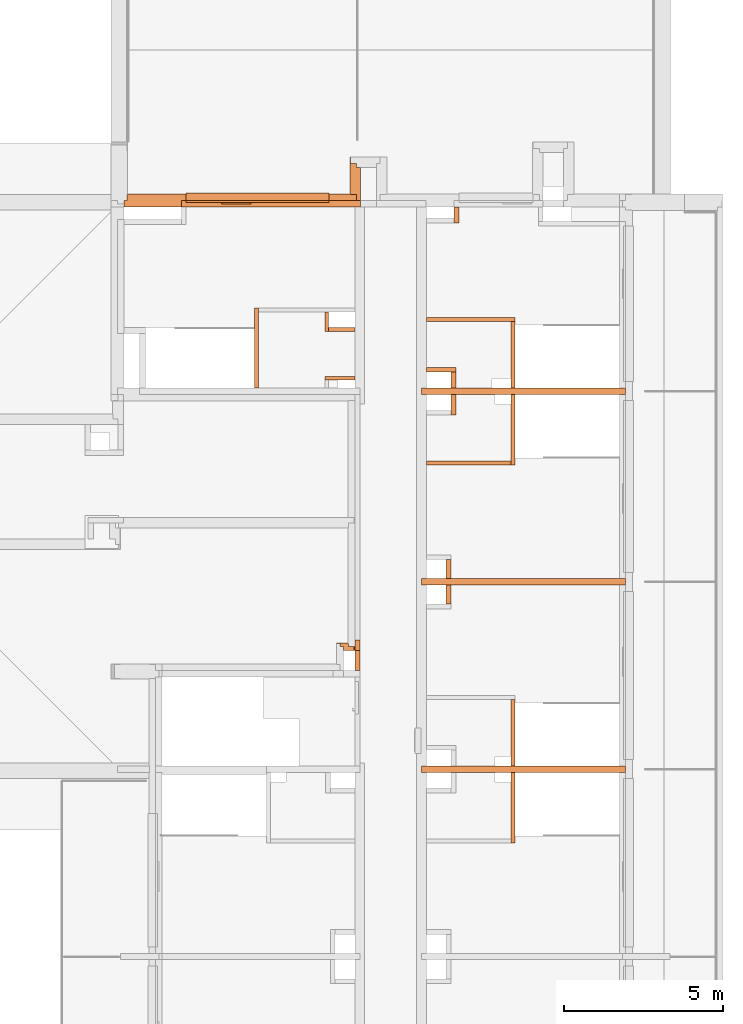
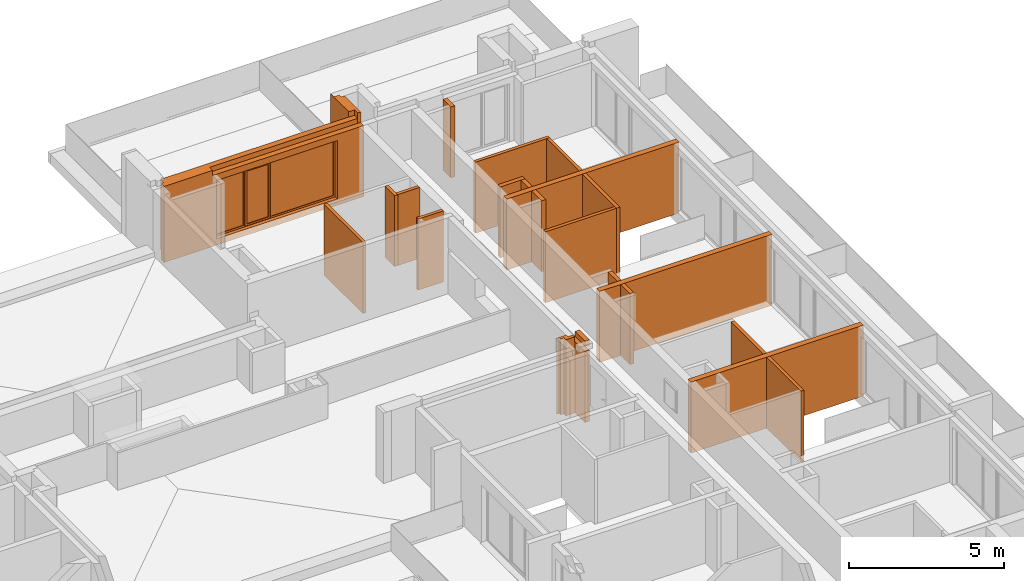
# One storey, part 29 of 30: 24 proxies, 2 openings.
"""IFC2X3 building model written with IfcOpenShell, lengths in millimetres."""

import ifcopenshell
import ifcopenshell.guid

model = None  # the IFC model being written
_history = None  # IfcOwnerHistory: only IFC2X3 demands one
_inside = {}  # id of a spatial element -> (the spatial element, [elements in it])
_under = {}  # id of a project, library or spatial element -> (it, [spatial elements below it])
_declared = {}  # id of a project -> (the project, [libraries it declares])
_typed = {}  # id of a type object -> (the type object, [elements of that type])
_made_of = {}  # id of a material, layer set ... -> (it, [elements and type objects made of it])


def new_model(schema):
    """Start an empty IFC model of exactly this schema.

    Asked for "IFC4X3", IfcOpenShell would pick the latest addendum, in which some entities
    have other attributes; the version numbers below select the first issue.
    IFC2X3 requires an IfcOwnerHistory on every rooted entity: one is made here for all.
    """
    global model, _history
    if schema == "IFC4X3":
        model = ifcopenshell.file(schema_version=(4, 3, 0, 0))
    else:
        model = ifcopenshell.file(schema=schema)
    _inside.clear()
    _under.clear()
    _declared.clear()
    _typed.clear()
    _made_of.clear()
    _history = None
    if model.schema == "IFC2X3":
        org = make("IfcOrganization", Name="unknown")
        user = make(
            "IfcPersonAndOrganization",
            ThePerson=make("IfcPerson", FamilyName="unknown"),
            TheOrganization=org,
        )
        app = make(
            "IfcApplication",
            ApplicationDeveloper=org,
            Version="unknown",
            ApplicationFullName="unknown",
            ApplicationIdentifier="unknown",
        )
        _history = make(
            "IfcOwnerHistory",
            OwningUser=user,
            OwningApplication=app,
            ChangeAction="ADDED",
            CreationDate=0,
        )
    return model


def make(cls, **values):
    """One entity of the class cls with the attributes given. An attribute that is None is left unset."""
    return model.create_entity(
        cls, **{name: value for name, value in values.items() if value is not None}
    )


def entity(cls, *values):
    """Any entity or typed value of the class cls, its attributes in the order of the schema. None: left unset."""
    e = model.create_entity(cls)
    for i, value in enumerate(values):
        if value is not None:
            e[i] = value
    return e


def rooted(cls, **values):
    """An entity with a GlobalId (a new one), such as an element, a storey or a relation."""
    return make(cls, GlobalId=ifcopenshell.guid.new(), OwnerHistory=_history, **values)


def si_unit(unit_type, name, prefix=None):
    """IfcSIUnit, for example si_unit("LENGTHUNIT", "METRE", prefix="MILLI")."""
    return make("IfcSIUnit", UnitType=unit_type, Prefix=prefix, Name=name)


def converted_unit(unit_type, name, factor, base, dimensions=None, offset=None):
    """IfcConversionBasedUnit, such as the inch: factor (a typed value) times the base unit."""
    return make(
        "IfcConversionBasedUnit"
        if offset is None
        else "IfcConversionBasedUnitWithOffset",
        ConversionOffset=offset,
        Dimensions=None
        if dimensions is None
        else entity("IfcDimensionalExponents", *dimensions),
        UnitType=unit_type,
        Name=name,
        ConversionFactor=make(
            "IfcMeasureWithUnit", ValueComponent=factor, UnitComponent=base
        ),
    )


def derived_unit(unit_type, elements):
    """IfcDerivedUnit: a product of units, each with its exponent."""
    return make(
        "IfcDerivedUnit",
        Elements=[
            make("IfcDerivedUnitElement", Unit=unit, Exponent=power)
            for unit, power in elements
        ],
        UnitType=unit_type,
    )


def money_unit(currency):
    """IfcMonetaryUnit."""
    return make("IfcMonetaryUnit", Currency=currency)


def assignment(units):
    """IfcUnitAssignment: the units of a project."""
    return None if units is None else make("IfcUnitAssignment", Units=units)


def point(xyz):
    """IfcCartesianPoint."""
    return None if xyz is None else make("IfcCartesianPoint", Coordinates=xyz)


def direction(xyz):
    """IfcDirection."""
    return None if xyz is None else make("IfcDirection", DirectionRatios=xyz)


def frame(location, z_axis=None, x_axis=None):
    """IfcAxis2Placement3D, a coordinate frame: its origin and axes. An axis left out is left unset."""
    return make(
        "IfcAxis2Placement3D",
        Location=point(location),
        Axis=direction(z_axis),
        RefDirection=direction(x_axis),
    )


def frame_2d(location, x_axis=None):
    """IfcAxis2Placement2D, a coordinate frame in the plane: its origin and x axis."""
    return make(
        "IfcAxis2Placement2D", Location=point(location), RefDirection=direction(x_axis)
    )


def origin_with_axes():
    """The frame at (0, 0, 0) with the z axis (0, 0, 1) and the x axis (1, 0, 0) written out."""
    return frame((0.0, 0.0, 0.0), z_axis=(0.0, 0.0, 1.0), x_axis=(1.0, 0.0, 0.0))


def origin_2d_with_axis():
    """The frame at (0, 0) in the plane with the x axis (1, 0) written out."""
    return frame_2d((0.0, 0.0), x_axis=(1.0, 0.0))


def place(relative_to, where):
    """IfcLocalPlacement: puts the frame where relative to a parent placement (None: the world)."""
    return make(
        "IfcLocalPlacement", PlacementRelTo=relative_to, RelativePlacement=where
    )


def context(
    kind, dimensions, precision=None, world=None, true_north=None, identifier=None
):
    """IfcGeometricRepresentationContext, for example the 3D "Model" context."""
    return make(
        "IfcGeometricRepresentationContext",
        ContextIdentifier=identifier,
        ContextType=kind,
        CoordinateSpaceDimension=dimensions,
        Precision=precision,
        WorldCoordinateSystem=world,
        TrueNorth=true_north,
    )


def subcontext(parent, identifier, kind, view, scale=None):
    """IfcGeometricRepresentationSubContext, for example "Body" below "Model"."""
    return make(
        "IfcGeometricRepresentationSubContext",
        ContextIdentifier=identifier,
        ContextType=kind,
        ParentContext=parent,
        TargetScale=scale,
        TargetView=view,
    )


def project(units=None, contexts=None):
    """IfcProject with its units and contexts."""
    return rooted(
        "IfcProject",
        Name="project",
        RepresentationContexts=contexts,
        UnitsInContext=assignment(units),
    )


def spatial(cls, under=None, at=None, **own):
    """A site, building, storey or space (cls), placed at a placement, below another one or the project."""
    s = rooted(cls, ObjectPlacement=at, **own)
    if under is not None:
        _under.setdefault(under.id(), (under, []))[1].append(s)
    return s


def polyline(points):
    """IfcPolyline through the points."""
    return make("IfcPolyline", Points=[point(p) for p in points])


def profile(cls, at=None, kind="AREA", **sizes):
    """A parametric profile (cls). Its sizes go by their IFC names, for example OverallWidth=200.0."""
    return make(cls, ProfileType=kind, Position=at, **sizes)


def rectangle(**sizes):
    """IfcRectangleProfileDef."""
    return profile("IfcRectangleProfileDef", **sizes)


def outline(outer, holes=None, kind="AREA"):
    """IfcArbitraryClosedProfileDef: a profile drawn as a closed curve; with holes, ...WithVoids."""
    if holes is None:
        return make("IfcArbitraryClosedProfileDef", ProfileType=kind, OuterCurve=outer)
    return make(
        "IfcArbitraryProfileDefWithVoids",
        ProfileType=kind,
        OuterCurve=outer,
        InnerCurves=holes,
    )


def extrude(swept, where, along, depth):
    """IfcExtrudedAreaSolid: the profile swept, set in the frame where, extruded along a direction by depth."""
    return make(
        "IfcExtrudedAreaSolid",
        SweptArea=swept,
        Position=where,
        ExtrudedDirection=direction(along),
        Depth=depth,
    )


def faces_of(points, faces, orient=None, outer=None):
    """IfcFace entities. A face is a list of loops; a loop is a list of indices into points, from 0.

    orient and outer hold one flag for each loop. By default every Orientation is true, the
    first loop of a face is its IfcFaceOuterBound and the others are IfcFaceBound.
    """
    made = []
    for i, loops in enumerate(faces):
        bounds = []
        for j, loop in enumerate(loops):
            is_outer = j == 0 if outer is None else outer[i][j]
            bounds.append(
                make(
                    "IfcFaceOuterBound" if is_outer else "IfcFaceBound",
                    Bound=make("IfcPolyLoop", Polygon=[points[k] for k in loop]),
                    Orientation=True if orient is None else orient[i][j],
                )
            )
        made.append(make("IfcFace", Bounds=bounds))
    return made


def open_shell(faces, orient=None, outer=None):
    """The faces of one IfcOpenShell. surface_model builds it on its shared points."""
    return ("IfcOpenShell", faces, orient, outer)


def faceted_brep(points, faces, orient=None, outer=None, voids=None):
    """IfcFacetedBrep: a solid bounded by flat faces; with voids (closed shells), ...WithVoids."""
    shared = [point(p) for p in points]
    hull = make("IfcClosedShell", CfsFaces=faces_of(shared, faces, orient, outer))
    if voids is None:
        return make("IfcFacetedBrep", Outer=hull)
    return make(
        "IfcFacetedBrepWithVoids",
        Outer=hull,
        Voids=[
            make(cls, CfsFaces=faces_of(shared, fs, o, b)) for cls, fs, o, b in voids
        ],
    )


def surface_model(cls, points, shells):
    """IfcFaceBasedSurfaceModel or IfcShellBasedSurfaceModel (cls): surfaces that need not close."""
    shared = [point(p) for p in points]
    made = [make(c, CfsFaces=faces_of(shared, fs, o, b)) for c, fs, o, b in shells]
    if cls == "IfcFaceBasedSurfaceModel":
        return make(cls, FbsmFaces=made)
    return make(cls, SbsmBoundary=made)


def shape(context_of_items, identifier, shape_type, items):
    """IfcShapeRepresentation: the items that make up one representation, for example the "Body"."""
    return make(
        "IfcShapeRepresentation",
        ContextOfItems=context_of_items,
        RepresentationIdentifier=identifier,
        RepresentationType=shape_type,
        Items=items,
    )


def material(Name=None, Category=None):
    """IfcMaterial."""
    return make("IfcMaterial", Name=Name, Category=Category)


def material_list(materials):
    """IfcMaterialList."""
    return make("IfcMaterialList", Materials=materials)


def made_of(thing, what):
    """Note that an element or type object is made of a material, layer set ...; save() writes the relation."""
    if what is not None:
        _made_of.setdefault(what.id(), (what, []))[1].append(thing)
    return thing


def type_object(cls, material=None, **own):
    """A type object (cls), such as IfcWallType, which elements share."""
    return made_of(rooted(cls, **own), material)


def element(
    cls,
    number,
    at=None,
    inside=None,
    cuts=None,
    type_object=None,
    material=None,
    context=None,
    identifier="Body",
    shape_type=None,
    held_by="IfcProductDefinitionShape",
    body=None,
    shapes=None,
    **own,
):
    """One element of the class cls, such as IfcWall. Its Tag is "e" and its number.

    at: its placement. inside: the storey or other place that contains it. cuts: it is an
    opening in that element (IfcRelVoidsElement). A single representation is given by context,
    identifier, shape_type and body (its items); several are given by shapes. held_by: the class
    of the entity that holds the representations. save() writes the other relations.
    """
    e = rooted(cls, Tag="e%d" % number, ObjectPlacement=at, **own)
    if body is not None:
        shapes = [shape(context, identifier, shape_type, body)]
    if shapes is not None:
        e.Representation = make(held_by, Representations=shapes)
    if inside is not None:
        _inside.setdefault(inside.id(), (inside, []))[1].append(e)
    if cuts is not None:
        rooted(
            "IfcRelVoidsElement", RelatingBuildingElement=cuts, RelatedOpeningElement=e
        )
    if type_object is not None:
        _typed.setdefault(type_object.id(), (type_object, []))[1].append(e)
    return made_of(e, material)


def fill(opening, filler):
    """IfcRelFillsElement: the door or window that sits in an opening."""
    return rooted(
        "IfcRelFillsElement",
        RelatingOpeningElement=opening,
        RelatedBuildingElement=filler,
    )


def aggregate(whole, parts):
    """IfcRelAggregates: a whole, such as a stair, and the parts it consists of."""
    return rooted("IfcRelAggregates", RelatingObject=whole, RelatedObjects=parts)


def save(model, path):
    """Write the relations noted so far, then the file.

    IfcRelAggregates (storeys below a building ...), IfcRelContainedInSpatialStructure (elements
    in a storey), IfcRelDefinesByType, IfcRelAssociatesMaterial and IfcRelDeclares: one each for
    every whole, place, type object, material and project.
    """
    for whole, parts in _under.values():
        aggregate(whole, parts)
    for where, things in _inside.values():
        rooted(
            "IfcRelContainedInSpatialStructure",
            RelatedElements=things,
            RelatingStructure=where,
        )
    for kind, things in _typed.values():
        rooted("IfcRelDefinesByType", RelatedObjects=things, RelatingType=kind)
    for what, things in _made_of.values():
        rooted("IfcRelAssociatesMaterial", RelatedObjects=things, RelatingMaterial=what)
    for by, libraries in _declared.values():
        rooted("IfcRelDeclares", RelatingContext=by, RelatedDefinitions=libraries)
    model.write(path)


model = new_model("IFC2X3")

# Units and contexts
model_context = context("Model", 3, precision=0.01, world=origin_with_axes(), true_north=direction((0.34421633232, 0.938890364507)))
body_context = subcontext(model_context, "Body", "Model", "MODEL_VIEW")
ifc_project = project(units=[si_unit("LENGTHUNIT", "METRE", prefix="MILLI"), si_unit("AREAUNIT", "SQUARE_METRE"), si_unit("VOLUMEUNIT", "CUBIC_METRE"), converted_unit("PLANEANGLEUNIT", "DEGREE", entity("IfcPlaneAngleMeasure", 0.0174532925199), si_unit("PLANEANGLEUNIT", "RADIAN"), dimensions=[0, 0, 0, 0, 0, 0, 0]), si_unit("SOLIDANGLEUNIT", "STERADIAN"), money_unit("USD"), converted_unit("TIMEUNIT", "Year", entity("IfcTimeMeasure", 31556926.0), si_unit("TIMEUNIT", "SECOND"), dimensions=[0, 0, 1, 0, 0, 0, 0]), si_unit("MASSUNIT", "GRAM", prefix="KILO"), si_unit("THERMODYNAMICTEMPERATUREUNIT", "DEGREE_CELSIUS"), si_unit("LUMINOUSINTENSITYUNIT", "LUMEN"), si_unit("ENERGYUNIT", "JOULE", prefix="MEGA"), derived_unit("THERMALCONDUCTANCEUNIT", [(si_unit("POWERUNIT", "WATT"), 1), (si_unit("LENGTHUNIT", "METRE"), -1), (si_unit("THERMODYNAMICTEMPERATUREUNIT", "KELVIN"), -1)]), derived_unit("SPECIFICHEATCAPACITYUNIT", [(si_unit("ENERGYUNIT", "JOULE"), 1), (si_unit("MASSUNIT", "GRAM", prefix="KILO"), -1), (si_unit("THERMODYNAMICTEMPERATUREUNIT", "KELVIN"), -1)]), derived_unit("MASSDENSITYUNIT", [(si_unit("MASSUNIT", "GRAM", prefix="KILO"), 1), (si_unit("VOLUMEUNIT", "CUBIC_METRE"), -1)])], contexts=[model_context])

# Site, building, storey
site_placement = place(None, origin_with_axes())
site = spatial("IfcSite", under=ifc_project, at=site_placement, Name="USTRONIE MORSKIE", CompositionType="ELEMENT")
building_placement = place(site_placement, origin_with_axes())
building = spatial("IfcBuilding", under=site, at=building_placement, Name="Budynek", CompositionType="ELEMENT")
storey_placement = place(building_placement, frame((0.0, 0.0, 16000.0), z_axis=(0.0, 0.0, 1.0), x_axis=(1.0, 0.0, 0.0)))
storey = spatial("IfcBuildingStorey", under=building, at=storey_placement, Name="ANTRESOLA - KOND. TECHNICZNA", CompositionType="ELEMENT", Elevation=16000.0)

# Proxies
ifc_material_1 = material(Name="Bloczki silikatowe")
building_element_proxy_type_1 = type_object("IfcBuildingElementProxyType", Name="Bloczki silikatowe 120", PredefinedType="NOTDEFINED")
proxy_1_placement = place(storey_placement, frame((420917.920919, 724641.180542, -159.999998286), z_axis=(0.0, 0.0, 1.0), x_axis=(0.0, 1.0, 0.0)))
element("IfcBuildingElementProxy", 1, at=proxy_1_placement, inside=storey, type_object=building_element_proxy_type_1, material=ifc_material_1, Name="SW-04", context=body_context, shape_type="Brep", body=[
    faceted_brep([(2160.01849378, -60.0, 2799.99999829), (2160.01849378, 60.0, 2799.99999829), (-59.9999999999, 60.0, 2799.99999829), (-59.9999999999, -60.0, 2799.99999829), (2160.01849378, -60.0, 0.0), (2160.01849378, 60.0, 0.0), (-59.9999999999, 60.0, 0.0), (-59.9999999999, -60.0, 0.0)], [[[0, 1, 2, 3]], [[1, 0, 4, 5]], [[1, 5, 6, 2]], [[7, 3, 2, 6]], [[4, 0, 3, 7]], [[5, 4, 7, 6]]]),
])
proxy_2_placement = place(storey_placement, frame((416017.920919, 739211.199036, -160.0), z_axis=(0.0, 0.0, 1.0), x_axis=(-1.0, 0.0, 0.0)))
element("IfcBuildingElementProxy", 2, at=proxy_2_placement, inside=storey, type_object=building_element_proxy_type_1, material=ifc_material_1, Name="Ściana-009", context=body_context, shape_type="Brep", body=[
    faceted_brep([(1020.00179464, 59.9999999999, 0.0), (1020.00179464, -59.9999999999, 0.0), (80.0, -59.9999999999, 0.0), (80.0, 59.9999999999, 0.0), (1020.00179464, 59.9999999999, 2800.0), (1020.00179464, -59.9999999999, 2800.0), (80.0, -59.9999999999, 2800.0), (80.0, 59.9999999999, 2800.0)], [[[0, 1, 2, 3]], [[1, 0, 4, 5]], [[1, 5, 6, 2]], [[7, 3, 2, 6]], [[4, 0, 3, 7]], [[5, 4, 7, 6]]]),
])
proxy_3_placement = place(storey_placement, frame((415057.919124, 740741.179476, -160.0), z_axis=(0.0, 0.0, 1.0), x_axis=(1.0, 0.0, 0.0)))
element("IfcBuildingElementProxy", 3, at=proxy_3_placement, inside=storey, type_object=building_element_proxy_type_1, material=ifc_material_1, Name="SW-04", context=body_context, shape_type="Brep", body=[
    faceted_brep([(880.001794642, 59.9999999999, 0.0), (880.001794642, -59.9999999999, 0.0), (60.0, -59.9999999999, 0.0), (60.0, 59.9999999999, 0.0), (880.001794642, 59.9999999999, 2800.0), (880.001794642, -59.9999999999, 2800.0), (60.0, -59.9999999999, 2800.0), (60.0, 59.9999999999, 2800.0)], [[[0, 1, 2, 3]], [[1, 0, 4, 5]], [[1, 5, 6, 2]], [[7, 3, 2, 6]], [[4, 0, 3, 7]], [[5, 4, 7, 6]]]),
])
proxy_4_placement = place(storey_placement, frame((420917.920919, 736541.179047, -159.999998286), z_axis=(0.0, 0.0, 1.0), x_axis=(-1.0, 0.0, 0.0)))
element("IfcBuildingElementProxy", 4, at=proxy_4_placement, inside=storey, type_object=building_element_proxy_type_1, material=ifc_material_1, Name="SW-04", context=body_context, shape_type="Brep", body=[
    faceted_brep([(2720.0, -59.9999999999, 2800.0), (2720.0, 59.9999999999, 2800.0), (60.0, 59.9999999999, 2800.0), (60.0, -59.9999999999, 2800.0), (2720.0, -59.9999999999, 0.0), (2720.0, 59.9999999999, 0.0), (60.0, 59.9999999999, 0.0), (60.0, -59.9999999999, 0.0)], [[[0, 1, 2, 3]], [[1, 0, 4, 5]], [[1, 5, 6, 2]], [[7, 3, 2, 6]], [[4, 0, 3, 7]], [[5, 4, 7, 6]]]),
])
proxy_5_placement = place(storey_placement, frame((420917.920919, 741061.218206, -159.999998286), z_axis=(0.0, 0.0, 1.0), x_axis=(-1.0, 0.0, 0.0)))
element("IfcBuildingElementProxy", 5, at=proxy_5_placement, inside=storey, type_object=building_element_proxy_type_1, material=ifc_material_1, Name="SW-04", context=body_context, shape_type="Brep", body=[
    faceted_brep([(2720.0, 59.9999999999, 0.0), (2720.0, -59.9999999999, 0.0), (-60.0, -59.9999999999, 0.0), (-60.0, 59.9999999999, 0.0), (2720.0, 59.9999999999, 2800.0), (2720.0, -59.9999999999, 2800.0), (-60.0, -59.9999999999, 2800.0), (-60.0, 59.9999999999, 2800.0)], [[[0, 1, 2, 3]], [[1, 0, 4, 5]], [[1, 5, 6, 2]], [[7, 3, 2, 6]], [[4, 0, 3, 7]], [[5, 4, 7, 6]]]),
])
proxy_6_placement = place(storey_placement, frame((420917.920919, 729161.219701, -159.999998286), z_axis=(0.0, 0.0, 1.0), x_axis=(0.0, -1.0, 0.0)))
element("IfcBuildingElementProxy", 6, at=proxy_6_placement, inside=storey, type_object=building_element_proxy_type_1, material=ifc_material_1, Name="SW-04", context=body_context, shape_type="Brep", body=[
    faceted_brep([(59.9999999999, -60.0, 2799.99999829), (2160.02066499, -60.0, 2799.99999829), (2160.02066499, 60.0, 2799.99999829), (59.9999999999, 60.0, 2799.99999829), (59.9999999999, -60.0, 0.0), (2160.02066499, -60.0, -1.7137242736e-06), (2160.02066499, 60.0, -1.7137242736e-06), (59.9999999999, 60.0, 0.0)], [[[0, 1, 2, 3]], [[4, 5, 1, 0]], [[5, 6, 2, 1]], [[3, 2, 6, 7]], [[3, 7, 4, 0]], [[7, 6, 5, 4]]]),
])
proxy_7_placement = place(storey_placement, frame((415057.919124, 741361.180377, -160.0), z_axis=(0.0, 0.0, 1.0), x_axis=(0.0, -1.0, 0.0)))
element("IfcBuildingElementProxy", 7, at=proxy_7_placement, inside=storey, type_object=building_element_proxy_type_1, material=ifc_material_1, Name="SW-04", context=body_context, shape_type="Brep", body=[
    faceted_brep([(680.00090117, 60.0, 0.0), (680.00090117, -60.0, 0.0), (59.9999999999, -60.0, 0.0), (59.9999999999, 60.0, 0.0), (680.00090117, 60.0, 2800.0), (680.00090117, -60.0, 2800.0), (59.9999999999, -60.0, 2800.0), (59.9999999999, 60.0, 2800.0)], [[[0, 1, 2, 3]], [[1, 0, 4, 5]], [[1, 5, 6, 2]], [[7, 3, 2, 6]], [[4, 0, 3, 7]], [[5, 4, 7, 6]]]),
])
proxy_8_placement = place(storey_placement, frame((420917.920919, 741061.218206, -159.999998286), z_axis=(0.0, 0.0, 1.0), x_axis=(0.0, -1.0, 0.0)))
element("IfcBuildingElementProxy", 8, at=proxy_8_placement, inside=storey, type_object=building_element_proxy_type_1, material=ifc_material_1, Name="SW-04", context=body_context, shape_type="Brep", body=[
    faceted_brep([(59.9999999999, -60.0, 2800.0), (2160.01307025, -60.0, 2799.99999829), (2160.01307025, 60.0, 2799.99999829), (59.9999999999, 60.0, 2800.0), (59.9999999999, -60.0, 0.0), (2160.01307025, -60.0, -1.71373315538e-06), (2160.01307025, 60.0, -1.71373315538e-06), (59.9999999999, 60.0, 0.0)], [[[0, 1, 2, 3]], [[4, 5, 1, 0]], [[5, 6, 2, 1]], [[3, 2, 6, 7]], [[3, 7, 4, 0]], [[7, 6, 5, 4]]]),
])
proxy_9_placement = place(storey_placement, frame((420917.920919, 736541.179047, -159.999998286), z_axis=(0.0, 0.0, 1.0), x_axis=(0.0, 1.0, 0.0)))
element("IfcBuildingElementProxy", 9, at=proxy_9_placement, inside=storey, type_object=building_element_proxy_type_1, material=ifc_material_1, Name="SW-04", context=body_context, shape_type="Brep", body=[
    faceted_brep([(2160.02608853, -60.0, 2800.0), (2160.02608853, 60.0, 2800.0), (-59.9999999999, 60.0, 2800.0), (-59.9999999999, -60.0, 2800.0), (2160.02608853, -60.0, 0.0), (2160.02608853, 60.0, 0.0), (-59.9999999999, 60.0, 0.0), (-59.9999999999, -60.0, 0.0)], [[[0, 1, 2, 3]], [[1, 0, 4, 5]], [[1, 5, 6, 2]], [[7, 3, 2, 6]], [[4, 0, 3, 7]], [[5, 4, 7, 6]]]),
])
proxy_10_placement = place(storey_placement, frame((412847.920963, 738901.199036, -160.0), z_axis=(0.0, 0.0, 1.0), x_axis=(0.0, 1.0, 0.0)))
element("IfcBuildingElementProxy", 10, at=proxy_10_placement, inside=storey, type_object=building_element_proxy_type_1, material=ifc_material_1, Name="SW-04", context=body_context, shape_type="Brep", body=[
    faceted_brep([(2519.98134114, 60.0, 0.0), (2519.98134114, -60.0, 0.0), (0.0, -60.0, 0.0), (0.0, 60.0, 0.0), (2519.98134114, 60.0, 2800.0), (2519.98134114, -60.0, 2800.0), (0.0, -60.0, 2800.0), (0.0, 60.0, 2800.0)], [[[0, 1, 2, 3]], [[1, 0, 4, 5]], [[1, 5, 6, 2]], [[7, 3, 2, 6]], [[4, 0, 3, 7]], [[5, 4, 7, 6]]]),
])

# Proxies, openings
ifc_material_2 = material(Name="Tynk zewnętrzny")
ifc_material_3 = material(Name="Wełna ELEW")
ifc_material_4 = material(Name="Beton konstrukcyjny B25")
ifc_material_list_1 = material_list([ifc_material_2, ifc_material_3, ifc_material_4])
building_element_proxy_type_2 = type_object("IfcBuildingElementProxyType", Name="20+20 410", PredefinedType="NOTDEFINED")
proxy_11_placement = place(storey_placement, frame((408567.920919, 744701.199036, -160.0), z_axis=(0.0, 0.0, 1.0), x_axis=(1.0, 0.0, 0.0)))
proxy_11 = element("IfcBuildingElementProxy", 11, at=proxy_11_placement, inside=storey, type_object=building_element_proxy_type_2, material=ifc_material_list_1, Name="SZ-01", context=body_context, shape_type="Brep", body=[
    faceted_brep([(7230.00002166, 300.0, 239.99999792), (7230.00002166, 310.0, 239.99999792), (7230.00002166, 310.0, 3000.0), (7230.00002166, 300.0, 3000.0), (210.0, 310.0, 239.99999792), (210.0, 300.0, 239.99999792), (210.0, 310.0, 3000.0), (210.0, 300.0, 3000.0)], [[[0, 1, 2, 3]], [[4, 1, 0, 5]], [[1, 4, 6, 2]], [[3, 2, 6, 7]], [[5, 0, 3, 7]], [[4, 5, 7, 6]]]),
    faceted_brep([(7430.00002166, 100.0, 239.99999792), (7430.00002166, 300.0, 239.99999792), (7430.00002166, 300.0, 3000.0), (7430.00002166, 100.0, 3000.0), (200.0, 300.0, 239.99999792), (200.0, 100.0, 239.99999792), (200.0, 300.0, 3000.0), (200.0, 100.0, 3000.0)], [[[0, 1, 2, 3]], [[4, 1, 0, 5]], [[1, 4, 6, 2]], [[3, 2, 6, 7]], [[5, 0, 3, 7]], [[4, 5, 7, 6]]]),
    faceted_brep([(1910.01916511, 100.0, 3000.0), (1910.01916511, 100.0, 2800.0), (7550.0, 100.0, 2800.0), (7550.0, 100.0, 0.0), (100.0, 100.0, 0.0), (100.0, 100.0, 3000.0), (1910.01916964, -100.0, 3000.0), (1910.01916964, -100.0, 2800.0), (7550.0, -100.0, 2800.0), (7550.0, -100.0, 0.0), (100.0, -100.0, 0.0), (100.0, -100.0, 3000.0)], [[[0, 1, 2, 3, 4, 5]], [[1, 0, 6, 7]], [[8, 2, 1, 7]], [[2, 8, 9, 3]], [[10, 4, 3, 9]], [[4, 10, 11, 5]], [[6, 0, 5, 11]], [[7, 6, 11, 10, 9, 8]]]),
])
opening_1_placement = place(proxy_11_placement, frame((1135.00958482, 0.0, 160.0), z_axis=(0.0, 0.0, 1.0), x_axis=(1.0, 0.0, 0.0)))
element("IfcOpeningElement", 12, at=opening_1_placement, cuts=proxy_11, Name="Okna-005", context=body_context, shape_type="SweptSolid", body=[
    extrude(outline(polyline([(-925.009584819, 0.0), (925.009584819, 0.0), (925.009584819, 2390.0), (-925.009584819, 2390.0), (-925.009584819, 0.0)])), frame((0.0, 290.0, 0.0), z_axis=(0.0, 1.0, 0.0), x_axis=(-1.0, 0.0, 0.0)), (0.0, 0.0, 1.0), 430.0),
])
opening_2_placement = place(proxy_11_placement, frame((4310.01916964, 0.0, 250.0), z_axis=(0.0, 0.0, 1.0), x_axis=(1.0, 0.0, 0.0)))
opening_2 = element("IfcOpeningElement", 13, at=opening_2_placement, cuts=proxy_11, Name="Wz.06", context=body_context, shape_type="SweptSolid", body=[
    extrude(rectangle(XDim=4500.0, YDim=2300.0, at=origin_2d_with_axis()), frame((0.0, 99.9999999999, 1150.0), z_axis=(0.0, -1.0, 0.0), x_axis=(-1.0, 0.0, 0.0)), (0.0, 0.0, -1.0), 620.0),
    extrude(rectangle(XDim=4500.0, YDim=2300.0, at=origin_2d_with_axis()), frame((0.0, 100.0, 1150.0), z_axis=(0.0, 1.0, 0.0), x_axis=(-1.0, 0.0, 0.0)), (0.0, 0.0, -1.0), 610.0),
])
building_element_proxy_type_3 = type_object("IfcBuildingElementProxyType", Name="Okno potrójne 23", PredefinedType="NOTDEFINED")
proxy_12_placement = place(opening_2_placement, frame((2250.0, 0.0, 0.0), z_axis=(0.0, 0.0, 1.0), x_axis=(-1.0, 0.0, 0.0)))
proxy_12 = element("IfcBuildingElementProxy", 14, at=proxy_12_placement, inside=storey, type_object=building_element_proxy_type_3, Name="Wz.06", context=body_context, shape_type="SurfaceModel", body=[
    faceted_brep([(0.0, -100.0, 5.0), (0.0, -310.0, 5.0), (0.0, -310.0, 18.9943663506), (0.0, -100.0, 30.0), (4500.0, -100.0, 5.0), (4500.0, -310.0, 5.0), (4500.0, -340.0, 5.0), (0.0, -340.0, 5.0), (0.0, -340.0, 17.4221329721), (4500.0, -340.0, 17.4221329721), (4500.0, -310.0, 18.9943663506), (4500.0, -100.0, 30.0)], [[[0, 1, 2, 3]], [[0, 4, 5, 6, 7, 1]], [[1, 7, 8, 2]], [[3, 2, 8, 9, 10, 11]], [[4, 0, 3, 11]], [[5, 4, 11, 10]], [[6, 5, 10, 9]], [[7, 6, 9, 8]]]),
    faceted_brep([(0.0, -100.0, 0.0), (0.0, -310.0, 0.0), (0.0, -310.0, 5.0), (0.0, -100.0, 5.0), (4500.0, -100.0, 0.0), (4500.0, -310.0, 0.0), (4500.0, -310.0, 5.0), (4500.0, -100.0, 5.0)], [[[0, 1, 2, 3]], [[0, 4, 5, 1]], [[1, 5, 6, 2]], [[3, 2, 6, 7]], [[4, 0, 3, 7]], [[5, 4, 7, 6]]]),
    faceted_brep([(3362.5, -59.9999999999, 2230.0), (3362.5, -100.0, 2230.0), (3427.5, -100.0, 2230.0), (3427.5, -35.0, 2230.0), (3387.5, -35.0, 2230.0), (3387.5, -59.9999999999, 2230.0), (3362.5, -59.9999999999, 70.0), (3362.5, -100.0, 70.0), (3427.5, -100.0, 70.0), (3427.5, -35.0, 70.0), (3387.5, -35.0, 70.0), (3387.5, -59.9999999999, 70.0)], [[[0, 1, 2, 3, 4, 5]], [[6, 7, 1, 0]], [[8, 2, 1, 7]], [[9, 3, 2, 8]], [[4, 3, 9, 10]], [[10, 11, 5, 4]], [[5, 11, 6, 0]], [[11, 10, 9, 8, 7, 6]]]),
    faceted_brep([(2452.5, -35.0, 2230.0), (2412.5, -35.0, 2230.0), (2412.5, -100.0, 2230.0), (2477.5, -100.0, 2230.0), (2477.5, -59.9999999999, 2230.0), (2452.5, -59.9999999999, 2230.0), (2452.5, -35.0, 70.0), (2412.5, -35.0, 70.0), (2412.5, -100.0, 70.0), (2477.5, -100.0, 70.0), (2477.5, -59.9999999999, 70.0), (2452.5, -59.9999999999, 70.0)], [[[0, 1, 2, 3, 4, 5]], [[6, 7, 1, 0]], [[1, 7, 8, 2]], [[2, 8, 9, 3]], [[4, 3, 9, 10]], [[10, 11, 5, 4]], [[5, 11, 6, 0]], [[11, 10, 9, 8, 7, 6]]]),
    faceted_brep([(3362.5, -59.9999999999, 70.0), (3362.5, -100.0, 70.0), (3427.5, -100.0, 70.0), (3427.5, -35.0, 70.0), (3387.5, -35.0, 70.0), (3387.5, -59.9999999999, 70.0), (2477.5, -59.9999999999, 70.0), (2477.5, -100.0, 70.0), (0.0, -100.0, 70.0), (0.0, -100.0, 0.0), (4500.0, -100.0, 0.0), (4500.0, -100.0, 70.0), (4430.0, -100.0, 70.0), (2412.5, -100.0, 70.0), (70.0, -100.0, 70.0), (4430.0, -35.0, 70.0), (2452.5, -35.0, 45.0), (3387.5, -35.0, 45.0), (4500.0, -35.0, 70.0), (4500.0, -35.0, 0.0), (0.0, -35.0, 0.0), (0.0, -35.0, 70.0), (70.0, -35.0, 70.0), (2412.5, -35.0, 70.0), (2452.5, -35.0, 70.0), (3387.5, -59.9999999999, 45.0), (2452.5, -59.9999999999, 45.0), (2452.5, -59.9999999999, 70.0)], [[[0, 1, 2, 3, 4, 5]], [[6, 7, 1, 0]], [[8, 9, 10, 11, 12, 2, 1, 7, 13, 14]], [[15, 3, 2, 12]], [[16, 17, 4, 3, 15, 18, 19, 20, 21, 22, 23, 24]], [[17, 25, 5, 4]], [[5, 25, 26, 27, 6, 0]], [[27, 24, 23, 13, 7, 6]], [[21, 20, 9, 8]], [[20, 19, 10, 9]], [[19, 18, 11, 10]], [[18, 15, 12, 11]], [[23, 22, 14, 13]], [[22, 21, 8, 14]], [[16, 26, 25, 17]], [[27, 26, 16, 24]]]),
    faceted_brep([(2452.5, -35.0, 2230.0), (2412.5, -35.0, 2230.0), (70.0, -35.0, 2230.0), (0.0, -35.0, 2230.0), (0.0, -35.0, 2300.0), (4500.0, -35.0, 2300.0), (4500.0, -35.0, 2230.0), (4430.0, -35.0, 2230.0), (3427.5, -35.0, 2230.0), (3387.5, -35.0, 2230.0), (3387.5, -35.0, 2255.0), (2452.5, -35.0, 2255.0), (2452.5, -59.9999999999, 2230.0), (2477.5, -59.9999999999, 2230.0), (2477.5, -100.0, 2230.0), (2412.5, -100.0, 2230.0), (70.0, -100.0, 2230.0), (0.0, -100.0, 2230.0), (0.0, -100.0, 2300.0), (4500.0, -100.0, 2300.0), (4500.0, -100.0, 2230.0), (4430.0, -100.0, 2230.0), (3427.5, -100.0, 2230.0), (3387.5, -59.9999999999, 2230.0), (3362.5, -100.0, 2230.0), (3362.5, -59.9999999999, 2230.0), (3387.5, -59.9999999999, 2255.0), (2452.5, -59.9999999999, 2255.0)], [[[0, 1, 2, 3, 4, 5, 6, 7, 8, 9, 10, 11]], [[12, 13, 14, 15, 1, 0]], [[2, 1, 15, 16]], [[3, 2, 16, 17]], [[4, 3, 17, 18]], [[5, 4, 18, 19]], [[6, 5, 19, 20]], [[7, 6, 20, 21]], [[8, 7, 21, 22]], [[23, 9, 8, 22, 24, 25]], [[9, 23, 26, 10]], [[10, 26, 27, 11]], [[11, 27, 12, 0]], [[25, 13, 12, 27, 26, 23]], [[25, 24, 14, 13]], [[14, 24, 22, 21, 20, 19, 18, 17, 16, 15]]]),
    faceted_brep([(70.0, -100.0, 2230.0), (70.0, -35.0, 2230.0), (0.0, -35.0, 2230.0), (0.0, -100.0, 2230.0), (70.0, -100.0, 70.0), (70.0, -35.0, 70.0), (0.0, -35.0, 70.0), (0.0, -100.0, 70.0)], [[[0, 1, 2, 3]], [[4, 5, 1, 0]], [[1, 5, 6, 2]], [[3, 2, 6, 7]], [[0, 3, 7, 4]], [[7, 6, 5, 4]]]),
    faceted_brep([(4430.0, -100.0, 70.0), (4430.0, -35.0, 70.0), (4500.0, -35.0, 70.0), (4500.0, -100.0, 70.0), (4430.0, -100.0, 2230.0), (4430.0, -35.0, 2230.0), (4500.0, -35.0, 2230.0), (4500.0, -100.0, 2230.0)], [[[0, 1, 2, 3]], [[4, 5, 1, 0]], [[1, 5, 6, 2]], [[3, 2, 6, 7]], [[0, 3, 7, 4]], [[7, 6, 5, 4]]]),
    surface_model("IfcShellBasedSurfaceModel", [(70.0, -69.9999999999, 70.0), (2412.5, -69.9999999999, 70.0), (2412.5, -69.9999999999, 2230.0), (70.0, -69.9999999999, 2230.0)], [open_shell([[[0, 1, 2, 3]]])]),
    surface_model("IfcShellBasedSurfaceModel", [(70.0, -50.0, 70.0), (70.0, -50.0, 2230.0), (2412.5, -50.0, 2230.0), (2412.5, -50.0, 70.0)], [open_shell([[[0, 1, 2, 3]]])]),
    faceted_brep([(2517.5, -59.9999999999, 2190.0), (2517.5, 5.0, 2190.0), (2452.5, 5.0, 2190.0), (2452.5, -59.9999999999, 2190.0), (2517.5, -59.9999999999, 110.0), (2517.5, 5.0, 110.0), (2452.5, 5.0, 110.0), (2452.5, -59.9999999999, 110.0)], [[[0, 1, 2, 3]], [[4, 5, 1, 0]], [[1, 5, 6, 2]], [[3, 2, 6, 7]], [[0, 3, 7, 4]], [[7, 6, 5, 4]]]),
    faceted_brep([(3322.5, -59.9999999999, 110.0), (3322.5, 5.0, 110.0), (3387.5, 5.0, 110.0), (3387.5, -59.9999999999, 110.0), (3322.5, -59.9999999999, 2190.0), (3322.5, 5.0, 2190.0), (3387.5, 5.0, 2190.0), (3387.5, -59.9999999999, 2190.0)], [[[0, 1, 2, 3]], [[4, 5, 1, 0]], [[1, 5, 6, 2]], [[3, 2, 6, 7]], [[0, 3, 7, 4]], [[7, 6, 5, 4]]]),
    faceted_brep([(3387.5, -59.9999999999, 45.0), (3387.5, 5.0, 45.0), (3387.5, 5.0, 110.0), (3387.5, -59.9999999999, 110.0), (2452.5, -59.9999999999, 45.0), (2452.5, 5.0, 45.0), (2452.5, 5.0, 110.0), (2517.5, 5.0, 110.0), (3322.5, 5.0, 110.0), (3322.5, -59.9999999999, 110.0), (2517.5, -59.9999999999, 110.0), (2452.5, -59.9999999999, 110.0)], [[[0, 1, 2, 3]], [[4, 5, 1, 0]], [[1, 5, 6, 7, 8, 2]], [[3, 2, 8, 9]], [[0, 3, 9, 10, 11, 4]], [[11, 6, 5, 4]], [[10, 7, 6, 11]], [[9, 8, 7, 10]]]),
    faceted_brep([(2452.5, -59.9999999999, 2255.0), (2452.5, 5.0, 2255.0), (2452.5, 5.0, 2190.0), (2452.5, -59.9999999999, 2190.0), (3387.5, -59.9999999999, 2255.0), (3387.5, 5.0, 2255.0), (3387.5, 5.0, 2190.0), (3322.5, 5.0, 2190.0), (2517.5, 5.0, 2190.0), (2517.5, -59.9999999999, 2190.0), (3322.5, -59.9999999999, 2190.0), (3387.5, -59.9999999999, 2190.0)], [[[0, 1, 2, 3]], [[4, 5, 1, 0]], [[1, 5, 6, 7, 8, 2]], [[3, 2, 8, 9]], [[0, 3, 9, 10, 11, 4]], [[11, 6, 5, 4]], [[10, 7, 6, 11]], [[9, 8, 7, 10]]]),
    surface_model("IfcShellBasedSurfaceModel", [(2517.5, -37.5, 110.0), (3322.5, -37.5, 110.0), (3322.5, -37.5, 2190.0), (2517.5, -37.5, 2190.0)], [open_shell([[[0, 1, 2, 3]]])]),
    surface_model("IfcShellBasedSurfaceModel", [(2517.5, -17.4999999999, 110.0), (2517.5, -17.4999999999, 2190.0), (3322.5, -17.4999999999, 2190.0), (3322.5, -17.4999999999, 110.0)], [open_shell([[[0, 1, 2, 3]]])]),
    surface_model("IfcShellBasedSurfaceModel", [(3427.5, -69.9999999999, 70.0), (4430.0, -69.9999999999, 70.0), (4430.0, -69.9999999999, 2230.0), (3427.5, -69.9999999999, 2230.0)], [open_shell([[[0, 1, 2, 3]]])]),
    surface_model("IfcShellBasedSurfaceModel", [(3427.5, -50.0, 70.0), (3427.5, -50.0, 2230.0), (4430.0, -50.0, 2230.0), (4430.0, -50.0, 70.0)], [open_shell([[[0, 1, 2, 3]]])]),
])
fill(opening_2, proxy_12)

# Proxies
building_element_proxy_type_4 = type_object("IfcBuildingElementProxyType", Name="Bloczki silikatowe 150", PredefinedType="NOTDEFINED")
proxy_13_placement = place(storey_placement, frame((419042.92182, 738801.205136, -160.0), z_axis=(0.0, 0.0, 1.0), x_axis=(0.0, -1.0, 0.0)))
element("IfcBuildingElementProxy", 15, at=proxy_13_placement, inside=storey, type_object=building_element_proxy_type_4, material=ifc_material_1, Name="SW-03", context=body_context, shape_type="Brep", body=[
    faceted_brep([(750.007374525, 75.0, 0.0), (750.007374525, -75.0, 0.0), (100.0, -75.0, 0.0), (100.0, 75.0, 0.0), (750.007374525, 75.0, 2800.0), (750.007374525, -75.0, 2800.0), (100.0, -75.0, 2800.0), (100.0, 75.0, 2800.0)], [[[0, 1, 2, 3]], [[1, 0, 4, 5]], [[1, 5, 6, 2]], [[7, 3, 2, 6]], [[4, 0, 3, 7]], [[5, 4, 7, 6]]]),
])
proxy_14_placement = place(storey_placement, frame((419042.92182, 739476.199519, -160.0), z_axis=(0.0, 0.0, 1.0), x_axis=(0.0, -1.0, 0.0)))
element("IfcBuildingElementProxy", 16, at=proxy_14_placement, inside=storey, type_object=building_element_proxy_type_4, material=ifc_material_1, Name="SW-03", context=body_context, shape_type="Brep", body=[
    faceted_brep([(75.0, -75.0, 2800.0), (574.994383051, -75.0, 2800.0), (574.994383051, 75.0, 2800.0), (75.0, 75.0, 2800.0), (75.0, -75.0, 0.0), (574.994383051, -75.0, 0.0), (574.994383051, 75.0, 0.0), (75.0, 75.0, 0.0)], [[[0, 1, 2, 3]], [[4, 5, 1, 0]], [[5, 6, 2, 1]], [[3, 2, 6, 7]], [[3, 7, 4, 0]], [[7, 6, 5, 4]]]),
])
proxy_15_placement = place(storey_placement, frame((418817.920919, 733501.199036, -160.0), z_axis=(0.0, 0.0, 1.0), x_axis=(0.0, -1.0, 0.0)))
element("IfcBuildingElementProxy", 17, at=proxy_15_placement, inside=storey, type_object=building_element_proxy_type_4, material=ifc_material_1, Name="SW-03", context=body_context, shape_type="Brep", body=[
    faceted_brep([(0.0, 0.0, 0.0), (0.0, 0.0, 2800.0), (0.0, 150.0, 2800.0), (0.0, 150.0, 0.0), (600.0, 0.0, 0.0), (600.0, 0.0, 2800.0), (600.0, 150.0, 2800.0), (600.0, 150.0, 0.0)], [[[0, 1, 2, 3]], [[4, 5, 1, 0]], [[5, 6, 2, 1]], [[3, 2, 6, 7]], [[0, 3, 7, 4]], [[7, 6, 5, 4]]]),
])
proxy_16_placement = place(storey_placement, frame((419142.92182, 744701.199973, -160.0), z_axis=(0.0, 0.0, 1.0), x_axis=(0.0, -1.0, 0.0)))
element("IfcBuildingElementProxy", 18, at=proxy_16_placement, inside=storey, type_object=building_element_proxy_type_4, material=ifc_material_1, Name="SW-03", context=body_context, shape_type="Brep", body=[
    faceted_brep([(600.000936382, 75.0, 0.0), (600.000936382, -75.0, 0.0), (100.000936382, -75.0, 0.0), (100.000936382, 75.0, 0.0), (600.000936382, 75.0, 2800.0), (600.000936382, -75.0, 2800.0), (100.000936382, -75.0, 2800.0), (100.000936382, 75.0, 2800.0)], [[[0, 1, 2, 3]], [[1, 0, 4, 5]], [[1, 5, 6, 2]], [[7, 3, 2, 6]], [[4, 0, 3, 7]], [[5, 4, 7, 6]]]),
])
proxy_17_placement = place(storey_placement, frame((418817.920919, 732101.199036, -160.0), z_axis=(0.0, 0.0, 1.0), x_axis=(0.0, 1.0, 0.0)))
element("IfcBuildingElementProxy", 19, at=proxy_17_placement, inside=storey, type_object=building_element_proxy_type_4, material=ifc_material_1, Name="SW-03", context=body_context, shape_type="Brep", body=[
    faceted_brep([(600.0, 0.0, 0.0), (600.0, 0.0, 2800.0), (600.0, -150.0, 2800.0), (600.0, -150.0, 0.0), (0.0, 0.0, 0.0), (0.0, 0.0, 2800.0), (0.0, -150.0, 2800.0), (0.0, -150.0, 0.0)], [[[0, 1, 2, 3]], [[4, 5, 1, 0]], [[5, 6, 2, 1]], [[3, 2, 6, 7]], [[7, 4, 0, 3]], [[7, 6, 5, 4]]]),
])
proxy_18_placement = place(storey_placement, frame((418117.920919, 739476.199519, -160.0), z_axis=(0.0, 0.0, 1.0), x_axis=(1.0, 0.0, 0.0)))
element("IfcBuildingElementProxy", 20, at=proxy_18_placement, inside=storey, type_object=building_element_proxy_type_4, material=ifc_material_1, Name="SW-03", context=body_context, shape_type="Brep", body=[
    faceted_brep([(1000.00090117, 75.0, 0.0), (1000.00090117, -75.0, 0.0), (80.0, -75.0, 0.0), (80.0, 75.0, 0.0), (1000.00090117, 75.0, 2800.0), (1000.00090117, -75.0, 2800.0), (80.0, -75.0, 2800.0), (80.0, 75.0, 2800.0)], [[[0, 1, 2, 3]], [[1, 0, 4, 5]], [[1, 5, 6, 2]], [[7, 3, 2, 6]], [[4, 0, 3, 7]], [[5, 4, 7, 6]]]),
])
building_element_proxy_type_5 = type_object("IfcBuildingElementProxyType", Name="Beton konstrukcyjny B25 200", PredefinedType="NOTDEFINED")
proxy_19_placement = place(storey_placement, frame((424367.920919, 732801.199036, -160.0), z_axis=(0.0, 0.0, 1.0), x_axis=(-1.0, 0.0, 0.0)))
element("IfcBuildingElementProxy", 21, at=proxy_19_placement, inside=storey, type_object=building_element_proxy_type_5, material=ifc_material_4, Name="SW-01", context=body_context, shape_type="Brep", body=[
    faceted_brep([(-100.0, -100.0, 0.0), (-100.0, 100.0, 0.0), (6330.0, 100.0, 0.0), (6330.0, -100.0, 0.0), (-100.0, -100.0, 2800.0), (-100.0, 100.0, 2800.0), (6330.0, 100.0, 2800.0), (6330.0, -100.0, 2800.0)], [[[0, 1, 2, 3]], [[0, 4, 5, 1]], [[1, 5, 6, 2]], [[6, 7, 3, 2]], [[4, 0, 3, 7]], [[5, 4, 7, 6]]]),
])
proxy_20_placement = place(storey_placement, frame((418117.920919, 738801.205136, -160.0), z_axis=(0.0, 0.0, 1.0), x_axis=(1.0, 0.0, 0.0)))
element("IfcBuildingElementProxy", 22, at=proxy_20_placement, inside=storey, type_object=building_element_proxy_type_5, material=ifc_material_4, Name="SW-01", context=body_context, shape_type="Brep", body=[
    faceted_brep([(-80.0, -100.0, 0.0), (-80.0, 100.0, 0.0), (6350.0, 100.0, 0.0), (6350.0, -100.0, 0.0), (-80.0, -100.0, 2800.0), (-80.0, 100.0, 2800.0), (6350.0, 100.0, 2800.0), (6350.0, -100.0, 2800.0)], [[[0, 1, 2, 3]], [[0, 4, 5, 1]], [[1, 5, 6, 2]], [[6, 7, 3, 2]], [[4, 0, 3, 7]], [[5, 4, 7, 6]]]),
])
proxy_21_placement = place(storey_placement, frame((418117.920919, 726901.199036, -160.0), z_axis=(0.0, 0.0, 1.0), x_axis=(1.0, 0.0, 0.0)))
element("IfcBuildingElementProxy", 23, at=proxy_21_placement, inside=storey, type_object=building_element_proxy_type_5, material=ifc_material_4, Name="SW-01", context=body_context, shape_type="Brep", body=[
    faceted_brep([(-80.0, 100.0, 2800.0), (-80.0, -100.0, 2800.0), (6350.0, -100.0, 2800.0), (6350.0, 100.0, 2800.0), (-80.0, 100.0, 0.0), (-80.0, -100.0, 0.0), (6350.0, -100.0, 0.0), (6350.0, 100.0, 0.0)], [[[0, 1, 2, 3]], [[0, 4, 5, 1]], [[1, 5, 6, 2]], [[6, 7, 3, 2]], [[4, 0, 3, 7]], [[5, 4, 7, 6]]]),
])
building_element_proxy_type_6 = type_object("IfcBuildingElementProxyType", Name="Beton konstrukcyjny B25 160", PredefinedType="NOTDEFINED")
proxy_22_placement = place(storey_placement, frame((416017.920919, 730641.199036, -160.0), z_axis=(0.0, 0.0, 1.0), x_axis=(0.0, -1.0, 0.0)))
element("IfcBuildingElementProxy", 24, at=proxy_22_placement, inside=storey, type_object=building_element_proxy_type_6, material=ifc_material_4, Name="SZ-01", context=body_context, shape_type="Brep", body=[
    faceted_brep([(640.000331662, 80.0, 3210.0), (640.000331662, 80.0, 3000.0), (0.0, 80.0, 3000.0), (0.0, 80.0, 3210.0), (640.000331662, -80.0, 3210.0), (640.000331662, -80.0, 3000.0), (0.0, -80.0, 3000.0), (0.0, -80.0, 3210.0)], [[[0, 1, 2, 3]], [[4, 5, 1, 0]], [[5, 6, 2, 1]], [[3, 2, 6, 7]], [[3, 7, 4, 0]], [[7, 6, 5, 4]]]),
    faceted_brep([(-330.0, -80.0, 0.0), (-330.0, -80.0, 2800.0), (-330.0, 80.0, 2800.0), (-330.0, 80.0, 0.0), (640.000331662, -80.0, 0.0), (640.000331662, -80.0, 2800.0), (640.000331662, 80.0, 2800.0), (640.000331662, 80.0, 0.0)], [[[0, 1, 2, 3]], [[4, 5, 1, 0]], [[5, 6, 2, 1]], [[3, 2, 6, 7]], [[0, 3, 7, 4]], [[7, 6, 5, 4]]]),
])
ifc_material_list_2 = material_list([ifc_material_2, ifc_material_3, ifc_material_1])
building_element_proxy_type_7 = type_object("IfcBuildingElementProxyType", Name="12+20 330", PredefinedType="NOTDEFINED")
proxy_23_placement = place(storey_placement, frame((415997.920941, 744701.199036, -160.0), z_axis=(0.0, 0.0, 1.0), x_axis=(0.0, 1.0, 0.0)))
element("IfcBuildingElementProxy", 25, at=proxy_23_placement, inside=storey, type_object=building_element_proxy_type_7, material=ifc_material_list_2, Name="Ściana-009", context=body_context, shape_type="Brep", body=[
    faceted_brep([(310.0, 200.0, 239.99999792), (1469.99914858, 200.0, 239.99999792), (1469.99914858, 200.0, 3210.0), (310.0, 200.0, 3210.0), (1469.99914858, 210.0, 239.99999792), (310.0, 210.0, 239.99999792), (1469.99914858, 210.0, 3210.0), (310.0, 210.0, 3210.0)], [[[0, 1, 2, 3]], [[4, 1, 0, 5]], [[1, 4, 6, 2]], [[6, 7, 3, 2]], [[5, 0, 3, 7]], [[4, 5, 7, 6]]]),
    faceted_brep([(300.0, 0.0, 239.99999792), (1269.99914858, 0.0, 239.99999792), (1269.99914858, 0.0, 3210.0), (300.0, 0.0, 3210.0), (1269.99914858, 200.0, 239.99999792), (300.0, 200.0, 239.99999792), (1269.99914858, 200.0, 3210.0), (300.0, 200.0, 3210.0)], [[[0, 1, 2, 3]], [[4, 1, 0, 5]], [[1, 4, 6, 2]], [[6, 7, 3, 2]], [[5, 0, 3, 7]], [[4, 5, 7, 6]]]),
    faceted_brep([(1149.99914858, 0.0, 3210.0), (100.0, 0.0, 3210.0), (100.0, -120.0, 3210.0), (1149.99914858, -120.0, 3210.0), (100.0, 0.0, 0.0), (1149.99914858, 0.0, 0.0), (100.0, -119.999978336, 0.0), (100.0, -119.999978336, 3000.0), (1149.99914858, -120.0, 0.0)], [[[0, 1, 2, 3]], [[4, 1, 0, 5]], [[6, 7, 2, 1, 4]], [[3, 2, 7, 6, 8]], [[0, 3, 8, 5]], [[8, 6, 4, 5]]]),
])
building_element_proxy_type_8 = type_object("IfcBuildingElementProxyType", Name="12+10 kominy 230", PredefinedType="NOTDEFINED")
proxy_24_placement = place(storey_placement, frame((415587.920919, 730641.199036, -159.999998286), z_axis=(0.0, 0.0, 1.0), x_axis=(1.0, 0.0, 0.0)))
element("IfcBuildingElementProxy", 26, at=proxy_24_placement, inside=storey, type_object=building_element_proxy_type_8, material=ifc_material_list_2, Name="Œciana-006", context=body_context, shape_type="Brep", body=[
    faceted_brep([(140.0, 220.0, 4.99999828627), (140.0, 230.0, 4.99999828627), (140.0, 230.0, 2999.99999829), (140.0, 220.0, 2999.99999829), (-220.0, 230.0, 4.99999828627), (-220.0, 220.0, 4.99999828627), (-220.0, 230.0, 2999.99999829), (-220.0, 220.0, 2999.99999829)], [[[0, 1, 2, 3]], [[4, 1, 0, 5]], [[1, 4, 6, 2]], [[3, 2, 6, 7]], [[5, 0, 3, 7]], [[4, 5, 7, 6]]]),
    faceted_brep([(150.0, 120.0, 4.99999828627), (150.0, 220.0, 4.99999828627), (150.0, 220.0, 2999.99999829), (150.0, 120.0, 2999.99999829), (-120.0, 220.0, 4.99999828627), (-120.0, 120.0, 4.99999828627), (-120.0, 220.0, 2999.99999829), (-120.0, 120.0, 2999.99999829)], [[[0, 1, 2, 3]], [[4, 1, 0, 5]], [[1, 4, 6, 2]], [[3, 2, 6, 7]], [[5, 0, 3, 7]], [[4, 5, 7, 6]]]),
    faceted_brep([(330.0, 120.0, 2999.99999829), (330.0, 120.0, 2799.99999829), (350.0, 120.0, 2799.99999829), (350.0, 120.0, 0.0), (0.0, 120.0, 0.0), (0.0, 120.0, 2999.99999829), (330.0, 0.0, 2999.99999829), (330.0, 0.0, 2799.99999829), (350.0, 0.0, 2799.99999829), (350.0, 0.0, 0.0), (0.0, 0.0, 0.0), (0.0, 0.0, 2999.99999829)], [[[0, 1, 2, 3, 4, 5]], [[1, 0, 6, 7]], [[8, 2, 1, 7]], [[2, 8, 9, 3]], [[4, 3, 9, 10]], [[4, 10, 11, 5]], [[6, 0, 5, 11]], [[7, 6, 11, 10, 9, 8]]]),
])

save(model, "model.ifc")
